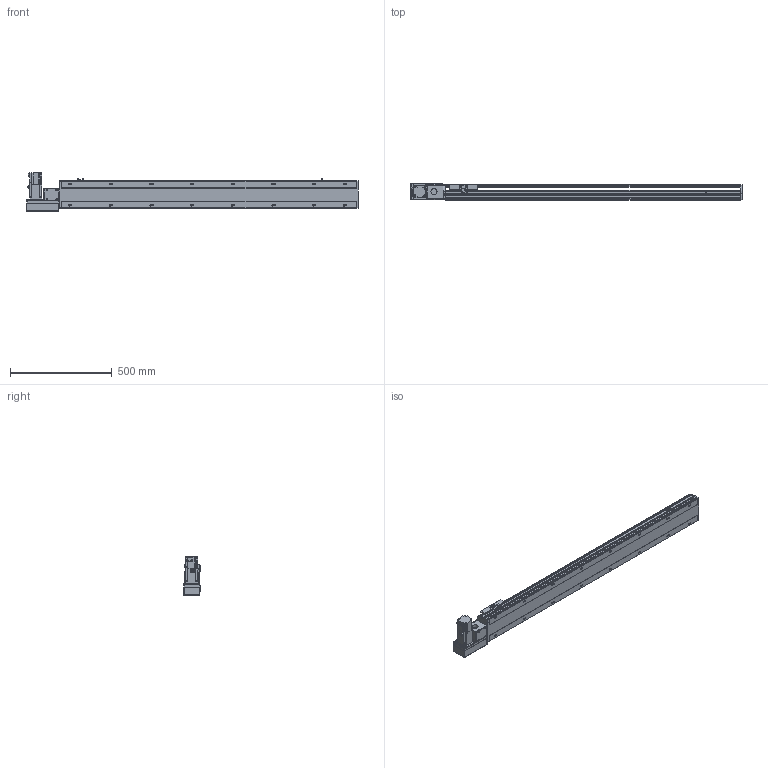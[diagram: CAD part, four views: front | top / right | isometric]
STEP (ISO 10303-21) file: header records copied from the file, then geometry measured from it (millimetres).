
FILE_DESCRIPTION(/* description */ ('STEP AP214'),/* implementation_level */ '2;1');
FILE_NAME(/* name */ 'PBS140-P40-S1200-L-T40-C1-N(0)',/* time_stamp */ '2022-06-06T03:01:49+02:00',/* author */ ('License CC BY-ND 4.0'),/* organization */ ('CADENAS'),/* preprocessor_version */ 'ST-DEVELOPER v18.102',/* originating_system */ 'PARTsolutions',/* authorisation */ ' ');
FILE_SCHEMA (('AUTOMOTIVE_DESIGN {1 0 10303 214 3 1 1}'));
Length unit declared in the file: millimetre
Products named in the file (7): PBS140-P40-S1200-L-T40-C1-N(0); PBS140_sensor; PBS140_plant; PBS140_sliser; T40-p1; PBS140T-L_motors; PBS140-S1200()_body
Assembly tree (8 placements, depth 2):
  PBS140-P40-S1200-L-T40-C1-N(0)
    PBS140_sensor  x3
    PBS140_plant
    PBS140_sliser
    T40-p1
    PBS140T-L_motors
    PBS140-S1200()_body
Bounding box: 1633 x 80.5 x 189.7 mm (x, y, z)
Volume: 7351710.8 mm3; surface area: 1278224.4 mm2
Topology: 8 solids, 8 shells, 1075 faces, 2836 edges, 1853 vertices
Faces by surface type: plane 692, cylinder 331, cone 42, sphere 8, torus 2
Full cylindrical faces by diameter (mm): 3.242 x4, 4 x2, 4.134 x4, 4.4 x8, 4.5 x2, 4.8 x4, 4.917 x24, 5.5 x7, 6 x2, 7 x18, 7.5 x8, 8 x12, 8.5 x4, 10.5 x16, 14 x1, 30 x2, 50 x2
Entity records: 30645 total; most frequent: CARTESIAN_POINT 5665, DIRECTION 5197, ORIENTED_EDGE 4912, EDGE_CURVE 2456, AXIS2_PLACEMENT_3D 1807, VERTEX_POINT 1701, LINE 1583, VECTOR 1583
